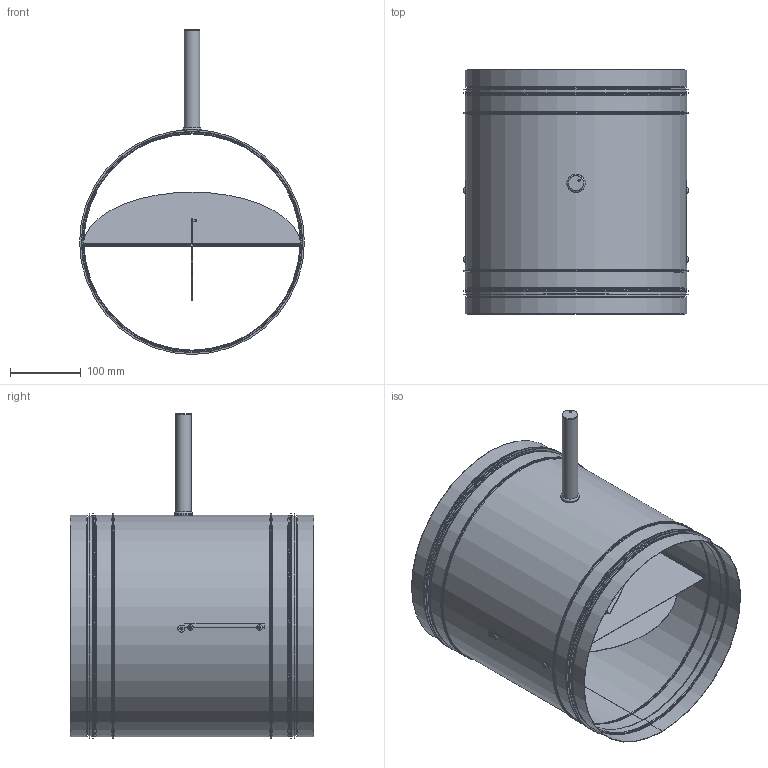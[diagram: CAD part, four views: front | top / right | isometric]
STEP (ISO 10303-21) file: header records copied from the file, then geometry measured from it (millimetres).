
FILE_DESCRIPTION(/* description */ (''),/* implementation_level */ '2;1');
FILE_NAME(/* name */ 'C:\Users\bonsen\Documents\Vault\Daten\BIM_Vorbereitung\VRK\Step Daten\233_VRK\233_315_VRK.stp',/* time_stamp */ '2022-02-03T08:44:31+01:00',/* author */ ('bonsen'),/* organization */ ('Aerotechnik E. Siegwart GmbH'),/* preprocessor_version */ 'ST-DEVELOPER v18.1',/* originating_system */ 'Autodesk Inventor 2020',/* authorisation */ '');
FILE_SCHEMA (('AUTOMOTIVE_DESIGN { 1 0 10303 214 3 1 1 }'));
Length unit declared in the file: millimetre
Products named in the file (5): VRK_80-400; Rohrkörper; Daempferplatte; Verstelleinheit; Lippengummi
Assembly tree (5 placements, depth 2):
  VRK_80-400
    Rohrkörper
    Daempferplatte
    Verstelleinheit
    Lippengummi  x2
Bounding box: 318 x 345 x 459.5 mm (x, y, z)
Volume: 417415 mm3; surface area: 1016335 mm2
Topology: 7 solids, 7 shells, 258 faces, 567 edges, 331 vertices
Faces by surface type: plane 151, cylinder 62, torus 42, bspline 2, cone 1
Full cylindrical faces by diameter (mm): 2 x5, 3 x2, 4 x2, 8 x4, 21.5 x1, 22 x1, 26 x1, 305.74 x2, 307 x2, 308 x2, 311.74 x5, 312 x6, 313 x5, 315.74 x2, 317 x2, 318 x4
Entity records: 7050 total; most frequent: DIRECTION 1314, CARTESIAN_POINT 1240, ORIENTED_EDGE 1084, EDGE_CURVE 542, AXIS2_PLACEMENT_3D 527, VERTEX_POINT 312, CIRCLE 267, EDGE_LOOP 264
